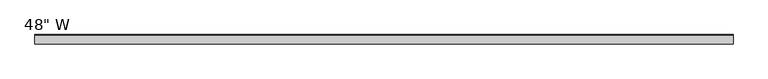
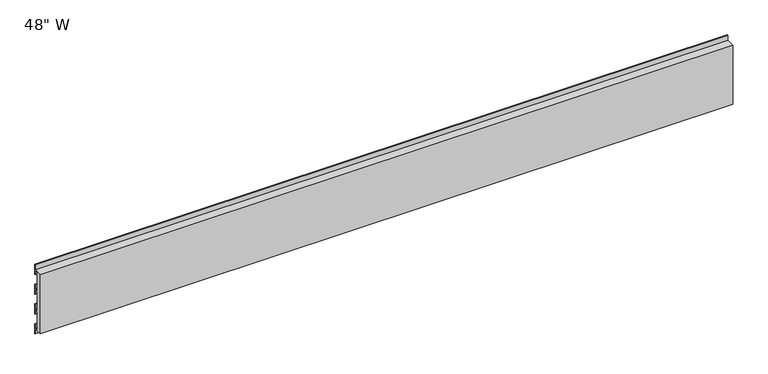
"""IFC4 building model written with IfcOpenShell, lengths in millimetres: furniture geometry."""

from ifc_helpers import new_model, si_unit, frame, origin, place, context, project, spatial, polyline, outline, extrude, source, transform, mapped, element, save


def furniture_8bf96b06(model_context):
    return source(origin(), model_context, "Body", "SweptSolid", [
        extrude(outline(polyline([(16.0203256, 1073.3107033), (16.0203256, 1054.7394742), (15.2117593, 1054.7394742), (15.2117593, 1063.0360019), (9.0487501, 1063.0360019), (9.0487501, 1027.6204874), (15.2400002, 1027.6204874), (15.2400002, 1036.7524902), (16.0203256, 1036.7524902), (16.0203256, 1018.4253753), (15.2400002, 1018.4253753), (15.2400002, 1026.8861283), (9.0487501, 1026.8861283), (9.0487501, 991.2985039), (15.2400002, 991.2985039), (15.2400002, 1000.4643901), (16.0203256, 1000.4643901), (16.0203256, 982.1700737), (15.2400002, 982.1700737), (15.2400002, 990.5641448), (9.0487501, 990.5641448), (9.0487501, 955.6974055), (15.2400002, 955.6974055), (15.2400002, 964.0969916), (16.0203256, 964.0969916), (16.0203256, 945.7690155), (15.2400002, 945.7690155), (15.2400002, 954.9765203), (0.0, 954.9765203), (0.0, 1063.9425436), (15.2117593, 1063.9425436), (15.2117593, 1073.3107033), (16.0203256, 1073.3107033)])), frame((-604.04375, 0.0, 0.0), z_axis=(1.0, 0.0, 0.0), x_axis=(0.0, 1.0, 0.0)), (0.0, 0.0, 1.0), 1208.0875),
    ])


if __name__ == "__main__":
    model = new_model("IFC4")
    model_context = context("Model", 3, world=origin())
    ifc_project = project(units=[si_unit("LENGTHUNIT", "METRE", prefix="MILLI")], contexts=[model_context])
    site = spatial("IfcSite", under=ifc_project)
    building = spatial("IfcBuilding", under=site)
    placement = place(None, origin())
    furniture_shape = furniture_8bf96b06(model_context)
    element("IfcFurniture", 1, ObjectType="HON - Abound - Systems Paper Management Support Bars : 48\" W", at=placement, inside=building, context=model_context, shape_type="MappedRepresentation", body=[
        mapped(furniture_shape, transform((0.0, 0.0, 0.0), x_axis=(1.0, 0.0, 0.0), y_axis=(0.0, 1.0, 0.0), z_axis=(0.0, 0.0, 1.0))),
    ])
    save(model, "model.ifc")
